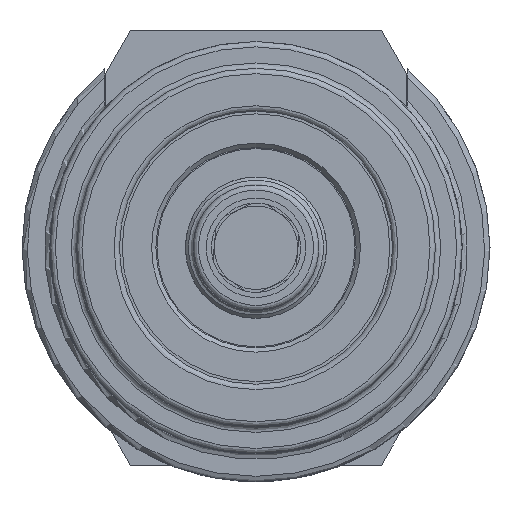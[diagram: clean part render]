
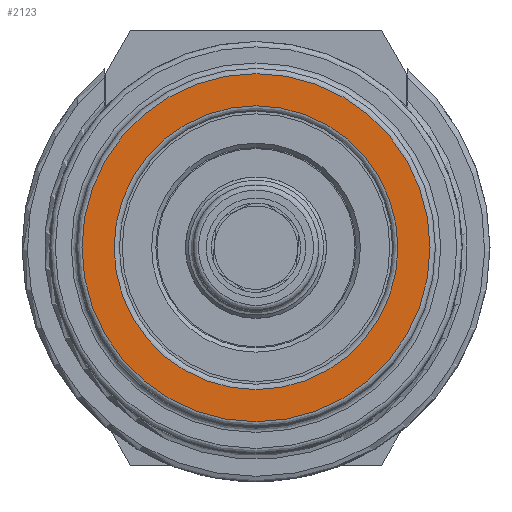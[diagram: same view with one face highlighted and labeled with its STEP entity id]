
A CAD part, front view. The second image highlights one B-rep face of the part: STEP entity #2123.
In plain terms, the highlighted planar face has unit normal (0, -1, 0).
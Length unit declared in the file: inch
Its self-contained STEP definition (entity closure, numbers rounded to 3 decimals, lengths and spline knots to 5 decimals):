
#134=FACE_BOUND('',#356,.T.);
#165=PLANE('',#2329);
#235=FACE_OUTER_BOUND('',#355,.T.);
#355=EDGE_LOOP('',(#1553,#1554));
#356=EDGE_LOOP('',(#1555,#1556));
#761=CIRCLE('',#2326,0.265);
#762=CIRCLE('',#2327,0.265);
#764=CIRCLE('',#2330,0.325);
#765=CIRCLE('',#2331,0.325);
#925=VERTEX_POINT('',#3428);
#926=VERTEX_POINT('',#3430);
#927=VERTEX_POINT('',#3435);
#928=VERTEX_POINT('',#3436);
#1169=EDGE_CURVE('',#925,#926,#761,.T.);
#1170=EDGE_CURVE('',#926,#925,#762,.T.);
#1172=EDGE_CURVE('',#927,#928,#764,.T.);
#1173=EDGE_CURVE('',#928,#927,#765,.T.);
#1553=ORIENTED_EDGE('',*,*,#1172,.F.);
#1554=ORIENTED_EDGE('',*,*,#1173,.F.);
#1555=ORIENTED_EDGE('',*,*,#1170,.F.);
#1556=ORIENTED_EDGE('',*,*,#1169,.F.);
#2123=ADVANCED_FACE('',(#235,#134),#165,.T.);
#2326=AXIS2_PLACEMENT_3D('',#3431,#2694,#2695);
#2327=AXIS2_PLACEMENT_3D('',#3432,#2696,#2697);
#2329=AXIS2_PLACEMENT_3D('',#3434,#2700,#2701);
#2330=AXIS2_PLACEMENT_3D('',#3437,#2702,#2703);
#2331=AXIS2_PLACEMENT_3D('',#3438,#2704,#2705);
#2694=DIRECTION('center_axis',(0.,-1.,0.));
#2695=DIRECTION('ref_axis',(0.,0.,1.));
#2696=DIRECTION('center_axis',(0.,-1.,0.));
#2697=DIRECTION('ref_axis',(0.,0.,1.));
#2700=DIRECTION('center_axis',(0.,-1.,0.));
#2701=DIRECTION('ref_axis',(0.,0.,-1.));
#2702=DIRECTION('center_axis',(0.,1.,0.));
#2703=DIRECTION('ref_axis',(0.,0.,1.));
#2704=DIRECTION('center_axis',(0.,1.,0.));
#2705=DIRECTION('ref_axis',(0.,0.,1.));
#3428=CARTESIAN_POINT('',(0.,0.,0.265));
#3430=CARTESIAN_POINT('',(0.,0.,-0.265));
#3431=CARTESIAN_POINT('Origin',(0.,0.,0.));
#3432=CARTESIAN_POINT('Origin',(0.,0.,0.));
#3434=CARTESIAN_POINT('Origin',(0.,0.,-0.255));
#3435=CARTESIAN_POINT('',(0.,0.,-0.325));
#3436=CARTESIAN_POINT('',(0.,0.,0.325));
#3437=CARTESIAN_POINT('Origin',(0.,0.,0.));
#3438=CARTESIAN_POINT('Origin',(0.,0.,0.));
